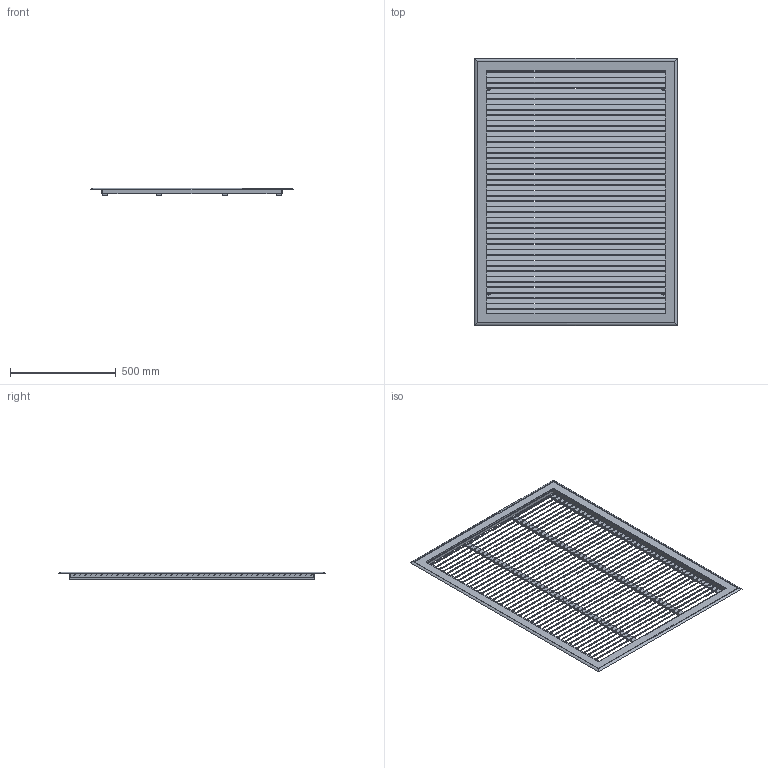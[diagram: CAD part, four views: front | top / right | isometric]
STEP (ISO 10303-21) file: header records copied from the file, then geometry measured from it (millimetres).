
FILE_DESCRIPTION (( 'STEP AP214' ), '1' );
FILE_NAME ('QLG-30-4H.STEP', '2016-07-14T18:17:33', ( 'BMC' ), ( 'Bard Manufacturing Co., Inc.' ), 'SwSTEP 2.0', 'SolidWorks 2016', '' );
FILE_SCHEMA (( 'AUTOMOTIVE_DESIGN' ));
Length unit declared in the file: inch
Products named in the file (1): QLG-30-4H
Bounding box: 955.67 x 1260.47 x 34.92 mm (x, y, z)
Surface area: 3601246.7 mm2 (no closed solid volume)
Topology: 0 solids, 1 shells, 804 faces, 2687 edges, 1514 vertices
Faces by surface type: plane 776, cylinder 28
Entity records: 28350 total; most frequent: ORIENTED_EDGE 5374, CARTESIAN_POINT 5114, DIRECTION 4285, EDGE_CURVE 2687, LINE 2627, VECTOR 2627, VERTEX_POINT 1514, AXIS2_PLACEMENT_3D 829
